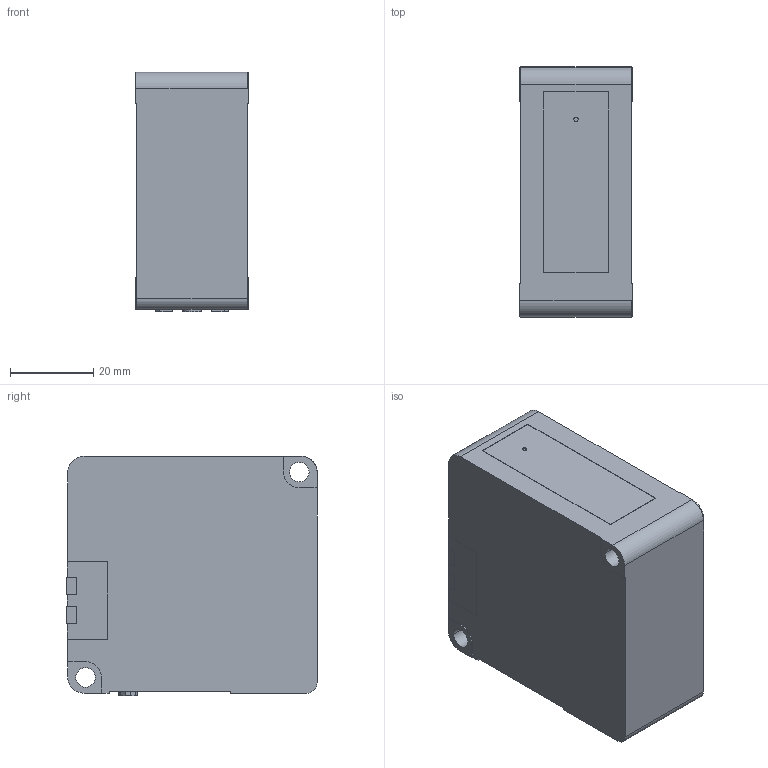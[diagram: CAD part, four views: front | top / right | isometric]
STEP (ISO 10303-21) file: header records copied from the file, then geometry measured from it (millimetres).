
FILE_DESCRIPTION (( 'STEP AP203' ), '1' );
FILE_NAME ('hl-g203b-s-mk.STEP', '2024-01-19T00:16:48', ( '' ), ( '' ), 'SwSTEP 2.0', 'SolidWorks 2022', '' );
FILE_SCHEMA (( 'CONFIG_CONTROL_DESIGN' ));
Length unit declared in the file: millimetre
Products named in the file (1): hl-g203b-s-mk
Bounding box: 27 x 60.2 x 57.6 mm (x, y, z)
Volume: 88657.7 mm3; surface area: 14976.9 mm2
Topology: 3 solids, 3 shells, 109 faces, 280 edges, 186 vertices
Faces by surface type: plane 86, cylinder 23
Entity records: 3365 total; most frequent: CARTESIAN_POINT 576, ORIENTED_EDGE 560, DIRECTION 546, EDGE_CURVE 280, LINE 234, VECTOR 234, VERTEX_POINT 186, AXIS2_PLACEMENT_3D 156
